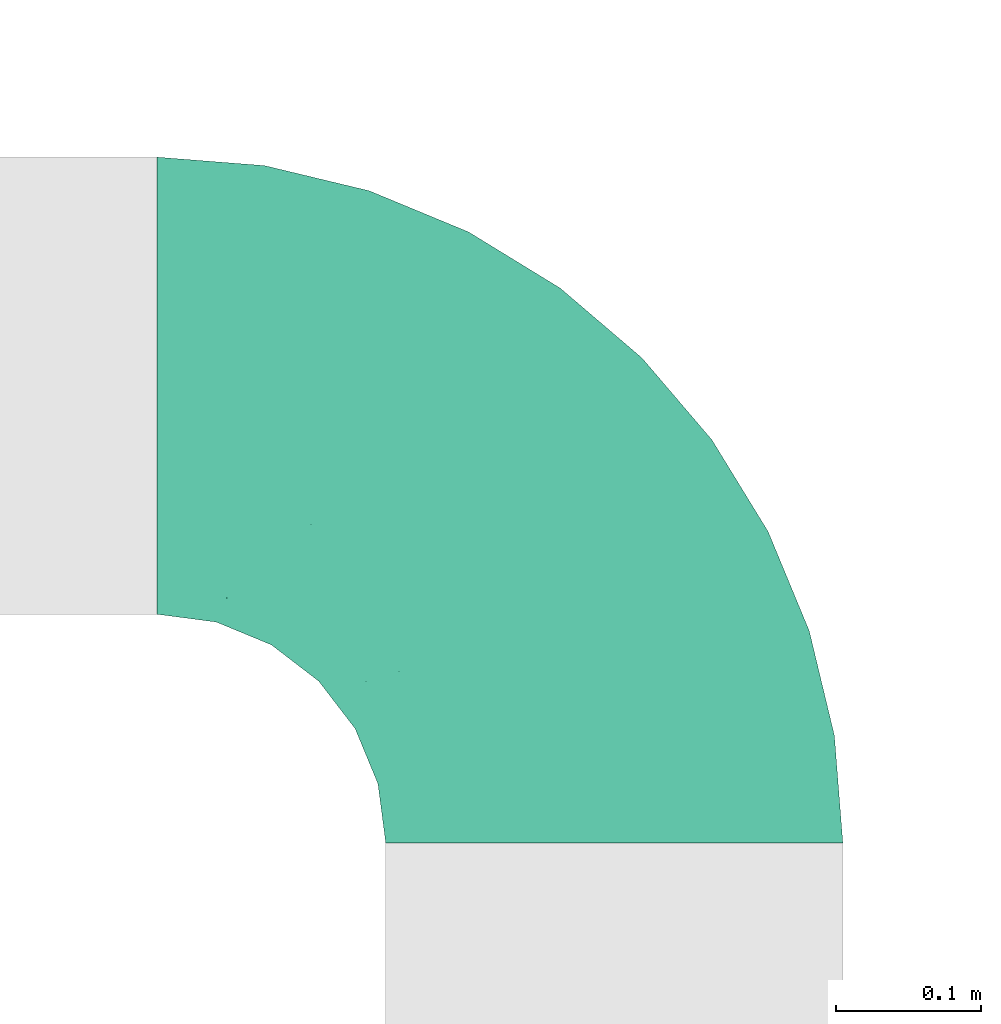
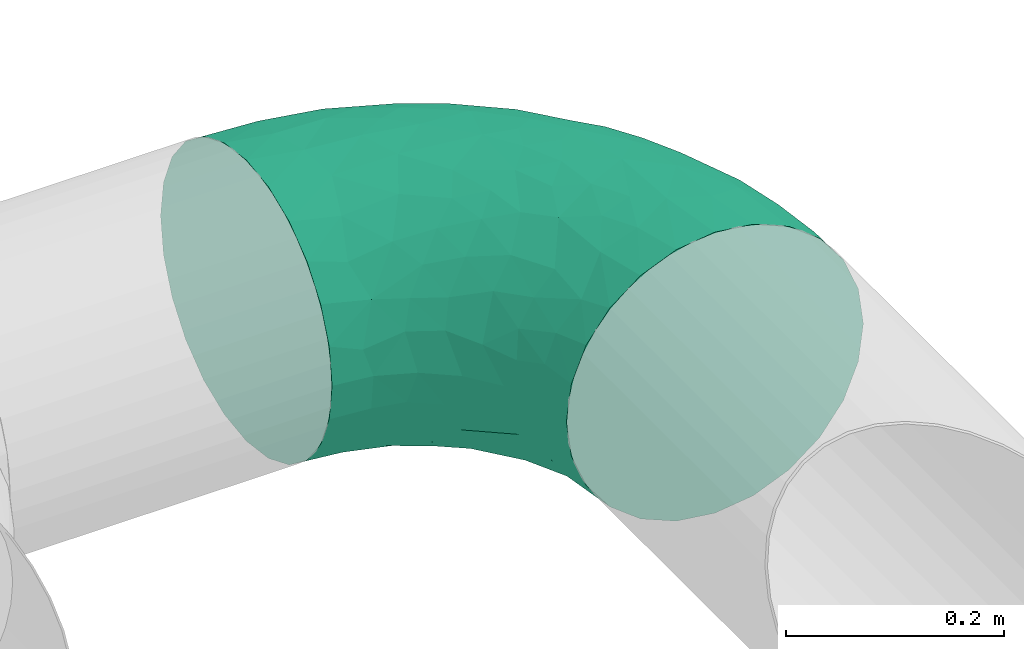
# One storey, part 59 of 63: 1 flow fitting.
"""IFC2X3 building model written with IfcOpenShell, lengths in millimetres."""

from ifc_helpers import new_model, entity, si_unit, converted_unit, derived_unit, direction, frame, origin_with_axes, place, context, subcontext, project, spatial, open_shell, surface_model, source, transform, mapped, type_object, element, save


model = new_model("IFC2X3")

# Units and contexts
model_context = context("Model", 3, precision=0.01, world=frame((0.0, 4.29681676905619e-09, 0.0)), true_north=direction((4.01073788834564e-13, 1.0)))
plan_context = context("Plan", 3, precision=0.01, world=frame((0.0, 4.29681676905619e-09, 0.0)), true_north=direction((4.01073788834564e-13, 1.0)))
body_context = subcontext(model_context, "Body", "Model", "MODEL_VIEW")
ifc_project = project(units=[converted_unit("PLANEANGLEUNIT", "DEGREE", entity("IfcPositiveLengthMeasure", 0.0174532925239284), si_unit("PLANEANGLEUNIT", "RADIAN"), dimensions=[0, 0, 0, 0, 0, 0, 0]), si_unit("AREAUNIT", "SQUARE_METRE"), si_unit("LENGTHUNIT", "METRE", prefix="MILLI"), si_unit("MASSUNIT", "GRAM", prefix="KILO"), si_unit("POWERUNIT", "WATT"), si_unit("PRESSUREUNIT", "PASCAL"), si_unit("FORCEUNIT", "NEWTON", prefix="KILO"), si_unit("ELECTRICVOLTAGEUNIT", "VOLT"), si_unit("ELECTRICCURRENTUNIT", "AMPERE"), si_unit("THERMODYNAMICTEMPERATUREUNIT", "DEGREE_CELSIUS"), si_unit("TIMEUNIT", "SECOND"), si_unit("VOLUMEUNIT", "CUBIC_METRE"), derived_unit("LINEARVELOCITYUNIT", [(si_unit("LENGTHUNIT", "METRE"), 1), (si_unit("TIMEUNIT", "SECOND"), -1)]), derived_unit("VOLUMETRICFLOWRATEUNIT", [(si_unit("VOLUMEUNIT", "CUBIC_METRE"), 1), (si_unit("TIMEUNIT", "SECOND"), -1)]), derived_unit("THERMALTRANSMITTANCEUNIT", [(si_unit("POWERUNIT", "WATT"), 1), (si_unit("THERMODYNAMICTEMPERATUREUNIT", "KELVIN"), -1), (si_unit("AREAUNIT", "SQUARE_METRE"), -1)]), derived_unit("SOUNDPRESSUREUNIT", [(si_unit("PRESSUREUNIT", "PASCAL"), 1)])], contexts=[model_context, plan_context])

# Site, building, storey
site_placement = place(None, frame((0.0, -4.29681676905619e-09, 0.0), z_axis=(0.0, 0.0, 1.0), x_axis=(1.0, 0.0, 0.0)))
site = spatial("IfcSite", under=ifc_project, at=site_placement, CompositionType="ELEMENT")
building_placement = place(site_placement, frame((0.0, 4.29681676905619e-09, 0.0), z_axis=(0.0, 0.0, 1.0), x_axis=(1.0, 0.0, 0.0)))
building = spatial("IfcBuilding", under=site, at=building_placement, Name="mc-building", CompositionType="ELEMENT")
storey_placement = place(building_placement, frame((0.0, 0.0, 210900.0), z_axis=(0.0, 0.0, 1.0), x_axis=(1.0, 0.0, 0.0)))
storey = spatial("IfcBuildingStorey", under=building, at=storey_placement, Name="Nivå F", CompositionType="ELEMENT", Elevation=210900.0)

# Flow fitting
duct_fitting_type = type_object("IfcDuctFittingType", Name="magicirc_elbow_full_radius_001", PredefinedType="BEND")
shared_shape = source(origin_with_axes(), body_context, "Body", "SurfaceModel", [
    surface_model("IfcShellBasedSurfaceModel", [(-315.0, 78.75, -136.39901), (-315.0, 40.764, -152.13332), (-315.0, 0.0, -157.5), (-315.0, 136.39901, -78.75), (-315.0, -40.764, -152.13332), (-315.0, 111.36932, -111.36932), (-315.0, -157.5, 0.0), (-315.0, -152.13332, 40.764), (-315.0, -111.36932, -111.36932), (-315.0, -152.13332, -40.764), (-315.0, -78.75, -136.39901), (-315.0, -136.39901, -78.75), (-315.0, 152.13332, -40.764), (-315.0, 152.13332, 40.764), (-315.0, 157.5, 0.0), (-315.0, 111.36932, 111.36932), (-315.0, 136.39901, 78.75), (-315.0, 78.75, 136.39901), (-315.0, 40.764, 152.13332), (-315.0, -111.36932, 111.36932), (-315.0, -78.75, 136.39901), (-315.0, -136.39901, 78.75), (-315.0, 0.0, 157.5), (-315.0, -40.764, 152.13332), (0.0, 315.0, -157.5), (-40.764, 315.0, -152.13332), (-78.75, 315.0, -136.39901), (-136.39901, 315.0, -78.75), (40.764, 315.0, -152.13332), (-111.36932, 315.0, -111.36932), (152.13332, 315.0, 40.764), (157.5, 315.0, 0.0), (78.75, 315.0, -136.39901), (152.13332, 315.0, -40.764), (111.36932, 315.0, -111.36932), (136.39901, 315.0, -78.75), (-152.13332, 315.0, -40.764), (-157.5, 315.0, 0.0), (-152.13332, 315.0, 40.764), (-111.36932, 315.0, 111.36932), (-136.39901, 315.0, 78.75), (-78.75, 315.0, 136.39901), (-40.764, 315.0, 152.13332), (136.39901, 315.0, 78.75), (78.75, 315.0, 136.39901), (111.36932, 315.0, 111.36932), (0.0, 315.0, 157.5), (40.764, 315.0, 152.13332), (-275.78673, -154.41385, 0.0), (-241.08472, -151.68274, 0.0), (-252.44974, -146.30358, 46.35165), (-187.41523, 212.23477, 44.18498), (-179.01149, 203.81739, 73.41005), (-160.11821, 234.12054, 71.62405), (-259.10789, -29.29167, 153.83069), (-244.91752, 10.986, 157.47118), (-224.67128, -127.46551, 78.41541), (-275.62484, -128.51884, 88.53098), (-239.58521, -68.78712, 137.8804), (-254.44946, -102.17277, 115.99392), (-204.97493, -89.72227, 117.91769), (-198.20454, -136.55993, 43.33884), (-148.94098, -119.38248, 47.89313), (-158.86886, -110.344, 75.73779), (39.78686, 15.52969, 50.216), (50.02524, 48.95167, 78.24133), (16.56876, 9.92294, 80.17525), (-156.73954, -92.78717, 99.09316), (-102.51279, -78.92253, 85.02595), (-126.30713, -72.38133, 106.65328), (-238.05749, 163.98734, 60.26168), (-237.20027, 147.2055, 88.84905), (-203.90523, 171.05831, 84.0913), (-99.39676, -101.96273, 31.06146), (-68.88048, -86.63056, 0.0), (-64.76022, -82.94549, 27.4714), (-194.76506, -28.32949, 149.7576), (24.59365, -9.6905, 28.83462), (43.18424, 9.08176, 0.0), (-28.15076, 147.0542, 156.53616), (-57.62232, 187.52251, 155.03024), (-72.61201, 106.84341, 157.43567), (-100.48949, -106.00058, 0.0), (-134.73948, -120.1874, 0.0), (-260.04347, 89.83524, 133.7152), (-237.26991, 125.02171, 112.97999), (-280.21215, 121.62894, 103.72153), (68.21928, 256.1901, 139.71452), (77.7719, 189.04071, 123.71299), (102.31809, 243.42041, 114.24978), (67.84442, 49.60938, 45.33346), (67.26053, 37.27147, 0.0), (90.55316, 77.99056, 29.40563), (-274.83669, 157.26153, 40.40661), (-274.67132, 145.30132, 71.02739), (-245.58363, 170.09727, 31.44943), (-158.01119, 282.57516, 29.57871), (-146.25125, 266.67126, 73.17914), (-201.21156, 99.95025, 140.23251), (-168.00076, 243.85557, 42.38557), (-236.25001, 178.601, 0.0), (-214.36106, 188.34463, 36.42869), (-203.63068, 203.63068, 0.0), (-162.86668, 274.236, 0.0), (-27.4795, -1.48331, 110.13927), (-51.96296, -33.03019, 100.52286), (-24.99652, -31.32094, 78.21218), (112.08788, 138.61937, 56.34637), (125.1619, 203.64453, 74.00759), (104.09929, 190.16434, 99.24634), (-263.88667, 52.46181, 150.1563), (6.28024, -18.02273, 54.59081), (-32.47692, -55.63747, 44.65165), (-205.03709, -143.02847, 0.0), (-151.50955, 215.6642, 97.49478), (-169.72394, 180.80582, 105.18325), (-137.80003, 192.65821, 121.95203), (-131.16131, 105.91152, 153.19188), (-137.52005, 135.51481, 144.53218), (-172.83727, 124.27225, 137.32768), (128.84491, 263.57392, 86.20478), (114.57644, 123.92915, 27.08781), (106.00058, 100.48949, 0.0), (131.75884, 176.48085, 38.42713), (143.02847, 205.03709, 0.0), (146.29642, 252.33829, 46.32598), (28.40156, 269.10441, 154.32704), (154.41385, 275.78673, 0.0), (-22.22564, 41.69116, 132.2609), (16.69324, 39.94323, 106.64404), (16.31975, 90.96952, 132.6244), (-52.03205, 254.37949, 150.89421), (153.88948, 315.0, 27.4246), (53.20704, 125.91085, 122.5592), (88.92651, 138.61761, 94.82216), (-274.236, 162.86668, 0.0), (-178.601, 236.25001, 0.0), (-168.81595, 14.50737, 156.32976), (-134.58592, -17.78306, 144.11351), (-96.06327, 24.61756, 149.79173), (-95.47965, 208.90923, 140.49399), (-78.67054, 72.23496, 155.69115), (-107.10628, 82.90122, 157.46314), (-89.91469, 266.26589, 132.78659), (-121.60296, 277.73788, 104.26598), (-11.78088, 260.70674, 157.34621), (-227.60537, 69.76326, 147.71238), (-195.7657, -66.84676, 132.57527), (-17.98791, 203.53807, 157.4841), (-60.53883, -60.45246, 74.88575), (-91.07399, -51.75682, 107.92189), (-197.57809, -110.08585, 94.49261), (-125.81015, 232.97235, 113.88738), (64.56465, 93.01368, 96.19249), (16.83328, 142.0015, 145.94195), (-22.72801, 90.93072, 148.21445), (-99.35511, 153.79, 150.7066), (57.69895, 213.45149, 140.44432), (29.76385, 212.9342, 151.06665), (41.25613, 174.00975, 141.99688), (81.24399, 84.86245, 65.51403), (-80.6457, -84.21175, 54.10058), (-119.42936, -101.75196, 60.63924), (-223.54613, 37.74243, 155.80439), (-168.22432, 88.17595, 150.9854), (-187.52253, 57.62232, 155.03024), (-196.7276, 148.24729, 112.17066), (-145.12836, 64.74974, 156.99994), (-62.1104, 49.45871, 148.77454), (-78.29466, 3.48913, 137.81789), (120.1874, 134.73948, 0.0), (134.3742, 168.98947, 0.0), (-124.07067, 168.52736, 138.84177), (0.02902, 171.95264, 154.42202), (-155.24181, 155.24181, 129.8968), (-73.90672, -22.7783, 121.68574), (-153.67663, -57.07317, 128.87412), (-113.78636, -39.32142, 127.49832), (-115.01886, 47.08507, 156.31037), (86.63056, 68.88048, 0.0), (-9.08176, -43.18424, 0.0), (19.10795, -19.10795, 0.0), (-168.98947, -134.3742, 0.0), (-37.27147, -67.26053, 0.0), (-315.0, -153.88948, 27.4246), (151.68274, 241.08472, 0.0), (-255.73532, 122.56558, -109.04479), (-214.29406, 93.80227, -140.10177), (-163.84149, 105.49727, -146.95596), (-183.82971, 59.98852, -154.94923), (-192.31906, 130.25635, -126.94074), (-214.67055, 186.05827, -42.62213), (-186.74496, 194.75879, -73.69482), (-239.00567, 164.73426, -57.54591), (84.53784, 80.13877, -52.6065), (-261.00954, 11.80363, -157.34285), (-250.44216, -29.83398, -153.37151), (-268.19836, 89.9699, -132.49512), (18.83806, 119.2151, -140.07242), (49.91254, 115.17721, -120.81771), (12.06978, 71.6341, -127.34592), (-248.07962, 169.80005, -27.2725), (-275.80747, 156.39383, -42.62213), (-196.40633, -137.77993, -37.15996), (-145.81166, -120.76195, -39.54807), (29.83399, 250.44214, -153.37151), (-188.19275, 214.15275, -37.45863), (-263.66616, 144.09279, -78.48806), (-189.95567, 165.06391, -102.28747), (43.89547, 65.88084, -99.75423), (78.16417, 108.21393, -90.03536), (-249.49402, 51.93128, -151.25871), (-315.0, -153.88948, -27.4246), (-247.57479, -102.2991, -114.91111), (-172.13573, -94.4716, -103.54526), (-203.64451, -125.1619, -74.00758), (-15.43872, -39.86246, -49.86848), (-49.56463, -70.60072, -36.85181), (-48.59952, -58.5205, -64.27403), (-252.33829, -146.29642, -46.32598), (-150.4225, 203.44707, -106.34238), (-263.57392, -128.84491, -86.20478), (-270.63117, -67.13499, -141.2369), (-215.39001, -68.32685, -135.04042), (102.2991, 247.57479, -114.91111), (-84.30908, -81.65653, -64.10818), (-91.06615, -97.14589, -32.77134), (94.4716, 172.13573, -103.54526), (68.32685, 215.39, -135.04042), (-163.2898, 237.20307, -62.64493), (-225.79476, 144.1207, -99.31867), (-157.79862, 273.70924, -39.50029), (-170.19986, 243.41794, -35.38905), (128.35851, 166.25059, -38.79853), (111.33052, 119.84284, -33.59532), (107.99483, 139.73378, -66.29524), (-159.64305, 170.07843, -119.54587), (-180.81821, -30.01596, -147.51371), (-145.25442, 275.15448, -70.89775), (-89.88491, 264.92544, -132.9879), (-44.17449, 280.59439, -151.79735), (-59.757, 315.0, -144.26616), (9.31111, -25.05617, -28.4426), (53.009, 25.90805, -37.46377), (-11.80362, 261.00954, -157.34285), (67.13499, 270.63117, -141.2369), (-92.6263, 92.62629, -157.49916), (-118.96141, 121.25661, -152.49801), (-64.39537, 156.51032, -156.4116), (-60.182, 62.8574, -151.37938), (-107.20835, 12.13665, -148.56572), (-115.08393, 49.61455, -156.55155), (128.84491, 263.57392, -86.20478), (142.02096, 205.05236, -27.6146), (29.81946, 180.40381, -147.52592), (-13.4149, 195.22557, -157.2133), (146.29642, 252.33829, -46.32598), (-37.40914, -4.7821, -114.20577), (-6.41858, -12.60422, -81.0379), (-50.98723, -38.43118, -94.2951), (-120.93204, -103.51151, -58.28641), (-96.41026, 201.21637, -141.79045), (-123.09172, 250.65074, -110.13461), (-121.89335, 288.06679, -101.98259), (-63.35086, 202.24527, -152.53228), (-222.08454, -6.89853, -156.21984), (125.1619, 203.64451, -74.00758), (-51.91054, 246.85668, -151.45138), (-161.36987, -115.89647, -67.15691), (61.05333, 59.83208, -73.20753), (-114.28437, -21.13487, -137.6727), (-72.08976, 0.21966, -134.09767), (2.17272, 150.10188, -151.66391), (-117.40709, -78.70988, -95.14777), (15.79609, -8.49924, -54.72897), (67.75002, 163.86592, -124.46846), (-163.86592, -67.75002, -124.46846), (-128.02491, 185.93738, -130.75264), (-108.32235, 160.67293, -146.80015), (-225.72616, 27.09586, -156.91411), (-54.59519, 105.68211, -156.33724), (-32.5663, 145.08674, -156.82141), (-145.37889, -8.42453, -149.28396), (-136.98265, 81.1657, -156.07826), (-156.31197, 39.80053, -157.47731), (-31.52679, 31.52678, -132.01846), (-143.53867, 148.20903, -138.06198), (-187.31767, 14.48755, -157.07868), (-19.17494, 108.97533, -150.78529), (2.87334, 23.19904, -105.99183), (32.99767, 23.1947, -73.77925), (-74.47057, -30.27504, -116.67674), (-115.17722, -49.91255, -120.81771), (153.88948, 315.0, -27.4246)], [open_shell([[[0, 1, 2]], [[3, 0, 2]], [[4, 3, 2]], [[5, 0, 3]], [[3, 6, 7]], [[8, 9, 10]], [[4, 10, 6]], [[11, 9, 8]], [[6, 10, 9]], [[6, 3, 4]], [[7, 12, 3]], [[13, 14, 15]], [[16, 13, 15]], [[17, 15, 7]], [[7, 15, 14]], [[17, 7, 18]], [[19, 20, 21]], [[7, 21, 22]], [[23, 22, 20]], [[21, 20, 22]], [[22, 18, 7]], [[12, 7, 14]], [[24, 25, 26]], [[24, 26, 27]], [[24, 27, 28]], [[27, 26, 29]], [[30, 31, 27]], [[32, 33, 34]], [[31, 32, 28]], [[34, 33, 35]], [[33, 32, 31]], [[28, 27, 31]], [[27, 36, 37]], [[27, 38, 39]], [[39, 38, 40]], [[30, 39, 41]], [[39, 30, 27]], [[41, 42, 30]], [[43, 44, 45]], [[46, 43, 30]], [[44, 46, 47]], [[46, 44, 43]], [[30, 42, 46]], [[38, 27, 37]], [[48, 49, 50]], [[51, 52, 53]], [[22, 54, 55]], [[56, 57, 50]], [[58, 59, 60]], [[23, 20, 58]], [[61, 62, 63]], [[64, 65, 66]], [[67, 68, 69]], [[70, 71, 72]], [[20, 59, 58]], [[73, 74, 75]], [[76, 54, 58]], [[64, 77, 78]], [[79, 80, 81]], [[50, 61, 56]], [[82, 73, 83]], [[84, 85, 86]], [[87, 88, 89]], [[22, 55, 18]], [[90, 91, 92]], [[93, 94, 70]], [[70, 95, 93]], [[96, 97, 38]], [[85, 84, 98]], [[99, 51, 53]], [[71, 70, 94]], [[100, 101, 102]], [[96, 103, 99]], [[14, 13, 93]], [[94, 93, 13]], [[64, 90, 65]], [[104, 105, 106]], [[107, 108, 109]], [[17, 110, 84]], [[111, 106, 112]], [[113, 50, 49]], [[20, 19, 59]], [[114, 115, 116]], [[117, 118, 119]], [[89, 44, 87]], [[19, 21, 57]], [[120, 89, 108]], [[121, 92, 122]], [[123, 124, 125]], [[46, 126, 47]], [[125, 127, 30]], [[16, 15, 86]], [[128, 129, 130]], [[120, 43, 45]], [[43, 125, 30]], [[123, 108, 107]], [[42, 41, 131]], [[127, 31, 132]], [[133, 134, 88]], [[93, 95, 135]], [[21, 7, 50]], [[99, 103, 136]], [[137, 138, 139]], [[102, 101, 51]], [[103, 96, 37]], [[140, 80, 131]], [[72, 101, 70]], [[51, 136, 102]], [[141, 81, 142]], [[131, 143, 140]], [[38, 97, 40]], [[39, 40, 144]], [[89, 45, 44]], [[145, 42, 131]], [[16, 94, 13]], [[41, 143, 131]], [[145, 46, 42]], [[15, 17, 84]], [[137, 55, 76]], [[23, 54, 22]], [[146, 84, 110]], [[58, 60, 147]], [[44, 47, 87]], [[88, 134, 109]], [[41, 39, 143]], [[80, 79, 148]], [[149, 150, 68]], [[67, 151, 63]], [[17, 18, 110]], [[84, 146, 98]], [[120, 125, 43]], [[125, 108, 123]], [[50, 7, 48]], [[50, 113, 61]], [[53, 52, 114]], [[144, 97, 152]], [[153, 129, 65]], [[111, 64, 66]], [[57, 59, 19]], [[60, 151, 67]], [[130, 133, 154]], [[129, 128, 104]], [[155, 154, 79]], [[156, 81, 80]], [[126, 87, 47]], [[157, 158, 159]], [[157, 88, 87]], [[160, 153, 65]], [[58, 54, 23]], [[55, 54, 76]], [[161, 162, 73]], [[162, 67, 63]], [[144, 143, 39]], [[143, 152, 140]], [[148, 131, 80]], [[126, 145, 158]], [[18, 55, 110]], [[163, 110, 55]], [[164, 98, 165]], [[98, 119, 166]], [[167, 117, 164]], [[140, 156, 80]], [[138, 137, 76]], [[168, 169, 128]], [[107, 134, 160]], [[89, 109, 108]], [[121, 123, 107]], [[170, 171, 123]], [[89, 120, 45]], [[125, 120, 108]], [[86, 94, 16]], [[94, 86, 71]], [[145, 126, 46]], [[126, 158, 157]], [[116, 140, 152]], [[118, 156, 172]], [[140, 116, 172]], [[81, 156, 117]], [[117, 167, 142]], [[81, 155, 79]], [[155, 130, 154]], [[148, 158, 145]], [[159, 88, 157]], [[173, 158, 148]], [[148, 79, 173]], [[131, 148, 145]], [[95, 70, 101]], [[14, 93, 135]], [[101, 100, 95]], [[135, 95, 100]], [[97, 144, 40]], [[143, 144, 152]], [[166, 71, 85]], [[71, 166, 72]], [[98, 166, 85]], [[166, 115, 72]], [[115, 166, 174]], [[101, 72, 52]], [[116, 115, 174]], [[52, 72, 115]], [[116, 174, 172]], [[114, 116, 152]], [[97, 114, 152]], [[52, 115, 114]], [[118, 172, 174]], [[140, 172, 156]], [[119, 118, 174]], [[156, 118, 117]], [[166, 119, 174]], [[119, 98, 164]], [[128, 130, 155]], [[153, 130, 129]], [[168, 128, 155]], [[104, 106, 66]], [[128, 169, 104]], [[162, 68, 67]], [[175, 150, 105]], [[176, 138, 76]], [[141, 155, 81]], [[139, 169, 168]], [[176, 69, 177]], [[147, 76, 58]], [[177, 150, 175]], [[138, 169, 139]], [[167, 137, 178]], [[137, 165, 163]], [[121, 122, 170]], [[126, 157, 87]], [[92, 121, 107]], [[123, 121, 170]], [[92, 107, 160]], [[90, 92, 160]], [[92, 91, 179]], [[65, 90, 160]], [[114, 97, 53]], [[160, 134, 153]], [[66, 65, 129]], [[134, 133, 153]], [[153, 133, 130]], [[104, 66, 129]], [[111, 66, 106]], [[149, 112, 106]], [[77, 64, 111]], [[161, 73, 75]], [[180, 181, 77]], [[77, 111, 112]], [[91, 90, 78]], [[77, 181, 78]], [[90, 64, 78]], [[97, 99, 53]], [[84, 86, 15]], [[86, 85, 71]], [[62, 61, 182]], [[151, 59, 56]], [[176, 60, 67]], [[59, 151, 60]], [[56, 61, 63]], [[56, 63, 151]], [[162, 63, 62]], [[62, 182, 83]], [[162, 161, 68]], [[149, 68, 161]], [[68, 150, 69]], [[62, 73, 162]], [[73, 82, 74]], [[183, 112, 75]], [[112, 149, 161]], [[149, 106, 105]], [[183, 75, 74]], [[112, 161, 75]], [[177, 69, 150]], [[176, 67, 69]], [[60, 176, 147]], [[76, 147, 176]], [[7, 184, 48]], [[184, 6, 48]], [[127, 125, 185]], [[127, 132, 30]], [[97, 96, 99]], [[37, 96, 38]], [[50, 57, 21]], [[59, 57, 56]], [[136, 51, 99]], [[101, 52, 51]], [[124, 123, 171]], [[124, 185, 125]], [[158, 173, 159]], [[154, 133, 159]], [[88, 159, 133]], [[83, 73, 62]], [[137, 163, 55]], [[146, 163, 165]], [[163, 146, 110]], [[98, 146, 165]], [[167, 164, 165]], [[119, 164, 117]], [[137, 167, 165]], [[167, 178, 142]], [[178, 139, 141]], [[117, 142, 81]], [[178, 141, 142]], [[155, 141, 168]], [[88, 109, 89]], [[107, 109, 134]], [[79, 154, 173]], [[173, 154, 159]], [[175, 104, 169]], [[149, 105, 150]], [[104, 175, 105]], [[177, 169, 138]], [[169, 177, 175]], [[138, 176, 177]], [[141, 139, 168]], [[139, 178, 137]], [[112, 180, 77]], [[179, 122, 92]], [[112, 183, 180]], [[113, 182, 61]], [[186, 5, 3]], [[187, 188, 189]], [[188, 187, 190]], [[191, 192, 193]], [[91, 194, 179]], [[2, 195, 196]], [[0, 5, 197]], [[198, 199, 200]], [[201, 202, 135]], [[182, 203, 204]], [[100, 201, 135]], [[28, 205, 24]], [[191, 102, 206]], [[12, 202, 207]], [[192, 208, 193]], [[209, 199, 210]], [[0, 211, 1]], [[197, 186, 187]], [[9, 48, 212]], [[213, 214, 215]], [[48, 6, 212]], [[216, 217, 218]], [[9, 11, 219]], [[192, 220, 208]], [[8, 221, 11]], [[191, 193, 201]], [[222, 196, 223]], [[10, 4, 222]], [[10, 222, 213]], [[113, 219, 203]], [[204, 82, 83]], [[32, 34, 224]], [[225, 217, 226]], [[8, 10, 213]], [[227, 228, 224]], [[229, 220, 192]], [[136, 206, 102]], [[186, 230, 190]], [[231, 229, 232]], [[233, 234, 235]], [[37, 36, 231]], [[208, 220, 236]], [[237, 223, 196]], [[238, 231, 36]], [[4, 2, 196]], [[239, 26, 240]], [[29, 26, 239]], [[232, 103, 231]], [[240, 241, 25]], [[78, 242, 243]], [[211, 0, 197]], [[24, 244, 25]], [[238, 36, 27]], [[24, 205, 244]], [[28, 245, 205]], [[180, 216, 242]], [[246, 247, 248]], [[14, 135, 202]], [[228, 245, 224]], [[234, 179, 194]], [[234, 194, 235]], [[249, 250, 251]], [[35, 252, 34]], [[28, 32, 245]], [[233, 253, 171]], [[205, 254, 255]], [[127, 185, 256]], [[33, 127, 256]], [[238, 229, 231]], [[230, 186, 207]], [[257, 258, 259]], [[35, 33, 256]], [[226, 260, 225]], [[218, 217, 225]], [[239, 261, 262]], [[263, 27, 29]], [[12, 207, 3]], [[264, 255, 248]], [[189, 211, 187]], [[265, 196, 195]], [[252, 224, 34]], [[227, 224, 266]], [[254, 205, 228]], [[244, 255, 267]], [[2, 1, 195]], [[196, 265, 237]], [[214, 213, 223]], [[221, 213, 215]], [[221, 219, 11]], [[268, 203, 215]], [[253, 185, 124]], [[252, 256, 266]], [[269, 210, 194]], [[227, 235, 210]], [[270, 250, 271]], [[198, 272, 254]], [[225, 273, 259]], [[274, 216, 258]], [[239, 267, 264]], [[263, 239, 262]], [[235, 227, 266]], [[275, 228, 227]], [[223, 276, 214]], [[214, 276, 273]], [[100, 102, 191]], [[202, 201, 193]], [[191, 201, 100]], [[191, 206, 192]], [[206, 229, 192]], [[229, 238, 220]], [[261, 277, 262]], [[277, 261, 278]], [[248, 247, 278]], [[190, 187, 186]], [[202, 193, 207]], [[14, 202, 12]], [[230, 193, 208]], [[3, 207, 186]], [[255, 244, 205]], [[26, 241, 240]], [[1, 211, 195]], [[279, 195, 211]], [[186, 197, 5]], [[211, 197, 187]], [[275, 254, 228]], [[199, 209, 200]], [[246, 249, 251]], [[280, 248, 281]], [[270, 282, 250]], [[237, 270, 276]], [[283, 251, 284]], [[285, 257, 271]], [[193, 230, 207]], [[230, 208, 190]], [[236, 190, 208]], [[188, 190, 286]], [[286, 247, 188]], [[284, 287, 189]], [[283, 188, 247]], [[189, 287, 279]], [[278, 247, 286]], [[283, 247, 246]], [[248, 278, 264]], [[255, 272, 281]], [[251, 283, 246]], [[189, 188, 283]], [[280, 249, 246]], [[250, 282, 284]], [[288, 285, 249]], [[249, 285, 271]], [[213, 221, 8]], [[219, 221, 215]], [[256, 252, 35]], [[224, 252, 266]], [[250, 249, 271]], [[285, 200, 289]], [[263, 238, 27]], [[220, 238, 262]], [[235, 266, 233]], [[210, 235, 194]], [[209, 269, 290]], [[210, 199, 275]], [[289, 209, 290]], [[209, 289, 200]], [[258, 289, 290]], [[257, 285, 289]], [[285, 288, 200]], [[198, 200, 288]], [[274, 258, 290]], [[218, 258, 216]], [[232, 229, 206]], [[37, 231, 103]], [[253, 266, 256]], [[233, 170, 234]], [[272, 198, 288]], [[275, 198, 254]], [[281, 272, 288]], [[255, 254, 272]], [[280, 281, 288]], [[255, 281, 248]], [[249, 280, 288]], [[248, 280, 246]], [[204, 268, 260]], [[74, 226, 217]], [[277, 278, 286]], [[278, 261, 264]], [[236, 277, 286]], [[262, 277, 220]], [[258, 257, 289]], [[122, 179, 234]], [[170, 233, 171]], [[170, 122, 234]], [[291, 257, 259]], [[291, 271, 257]], [[271, 291, 270]], [[276, 270, 292]], [[282, 270, 237]], [[237, 287, 282]], [[282, 287, 284]], [[273, 291, 259]], [[291, 292, 270]], [[266, 253, 233]], [[185, 253, 256]], [[224, 245, 32]], [[205, 245, 228]], [[196, 222, 4]], [[213, 222, 223]], [[243, 274, 290]], [[242, 216, 274]], [[243, 290, 269]], [[78, 181, 242]], [[243, 242, 274]], [[183, 217, 180]], [[242, 181, 180]], [[206, 136, 232]], [[124, 171, 253]], [[103, 232, 136]], [[113, 49, 219]], [[215, 203, 219]], [[48, 219, 49]], [[9, 219, 48]], [[293, 31, 127]], [[127, 33, 293]], [[239, 263, 29]], [[238, 263, 262]], [[226, 204, 260]], [[243, 91, 78]], [[74, 82, 226]], [[180, 217, 216]], [[74, 217, 183]], [[204, 203, 268]], [[260, 268, 273]], [[215, 214, 268]], [[273, 268, 214]], [[225, 259, 218]], [[258, 218, 259]], [[240, 244, 267]], [[244, 240, 25]], [[240, 267, 239]], [[194, 91, 243]], [[210, 275, 227]], [[275, 199, 198]], [[237, 276, 223]], [[273, 276, 292]], [[273, 292, 291]], [[260, 273, 225]], [[277, 236, 220]], [[190, 236, 286]], [[189, 279, 211]], [[265, 279, 287]], [[279, 265, 195]], [[237, 265, 287]], [[239, 264, 261]], [[255, 264, 267]], [[283, 284, 189]], [[284, 251, 250]], [[210, 269, 209]], [[243, 269, 194]], [[82, 204, 226]], [[83, 182, 204]], [[203, 182, 113]]])]),
])
flow_fitting_placement = place(storey_placement, frame((529594.70329, 452014.68542, 4200.0), z_axis=(0.0, 0.0, 1.0), x_axis=(0.0, 1.0, 0.0)))
element("IfcFlowFitting", 1, at=flow_fitting_placement, inside=storey, type_object=duct_fitting_type, Name="magicirc_elbow_full_radius_001", context=body_context, shape_type="MappedRepresentation", body=[
    mapped(shared_shape, transform((0.0, 0.0, 0.0), scale=1.0)),
])

save(model, "model.ifc")
